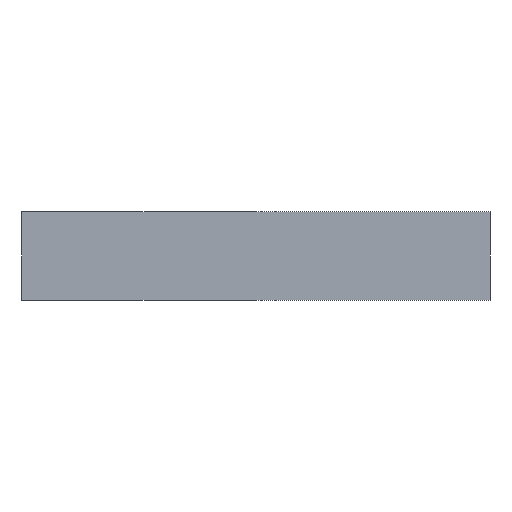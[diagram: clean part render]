
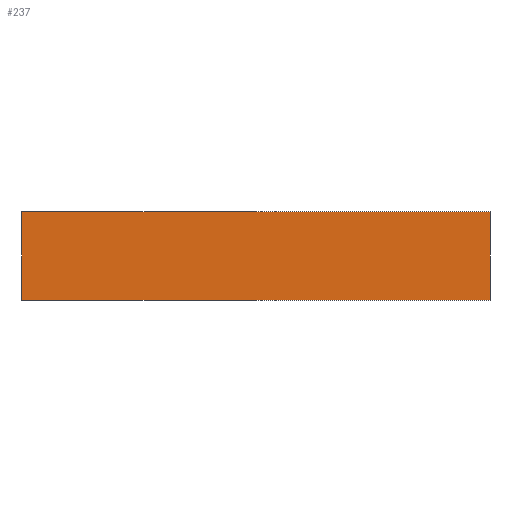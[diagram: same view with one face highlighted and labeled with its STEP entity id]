
A CAD part, front view. The second image highlights one B-rep face of the part: STEP entity #237.
In plain terms, the highlighted planar face has unit normal (0, -1, 0).
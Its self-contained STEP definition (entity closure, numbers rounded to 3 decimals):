
#21 = EDGE_CURVE('',#22,#24,#26,.T.);
#22 = VERTEX_POINT('',#23);
#23 = CARTESIAN_POINT('',(0.,0.,0.));
#24 = VERTEX_POINT('',#25);
#25 = CARTESIAN_POINT('',(0.,0.,22.));
#26 = SURFACE_CURVE('',#27,(#31,#43),.PCURVE_S1.);
#27 = LINE('',#28,#29);
#28 = CARTESIAN_POINT('',(0.,0.,0.));
#29 = VECTOR('',#30,1.);
#30 = DIRECTION('',(0.,0.,1.));
#31 = PCURVE('',#32,#37);
#32 = PLANE('',#33);
#33 = AXIS2_PLACEMENT_3D('',#34,#35,#36);
#34 = CARTESIAN_POINT('',(0.,0.,0.));
#35 = DIRECTION('',(1.,0.,0.));
#36 = DIRECTION('',(0.,0.,1.));
#37 = DEFINITIONAL_REPRESENTATION('',(#38),#42);
#38 = LINE('',#39,#40);
#39 = CARTESIAN_POINT('',(0.,0.));
#40 = VECTOR('',#41,1.);
#41 = DIRECTION('',(1.,0.));
#42 = ( GEOMETRIC_REPRESENTATION_CONTEXT(2) 
PARAMETRIC_REPRESENTATION_CONTEXT() REPRESENTATION_CONTEXT('2D SPACE',''
  ) );
#43 = PCURVE('',#44,#49);
#44 = PLANE('',#45);
#45 = AXIS2_PLACEMENT_3D('',#46,#47,#48);
#46 = CARTESIAN_POINT('',(0.,0.,0.));
#47 = DIRECTION('',(0.,1.,0.));
#48 = DIRECTION('',(0.,0.,1.));
#49 = DEFINITIONAL_REPRESENTATION('',(#50),#54);
#50 = LINE('',#51,#52);
#51 = CARTESIAN_POINT('',(0.,0.));
#52 = VECTOR('',#53,1.);
#53 = DIRECTION('',(1.,0.));
#54 = ( GEOMETRIC_REPRESENTATION_CONTEXT(2) 
PARAMETRIC_REPRESENTATION_CONTEXT() REPRESENTATION_CONTEXT('2D SPACE',''
  ) );
#72 = PLANE('',#73);
#73 = AXIS2_PLACEMENT_3D('',#74,#75,#76);
#74 = CARTESIAN_POINT('',(0.,0.,0.));
#75 = DIRECTION('',(0.,0.,1.));
#76 = DIRECTION('',(1.,0.,0.));
#126 = PLANE('',#127);
#127 = AXIS2_PLACEMENT_3D('',#128,#129,#130);
#128 = CARTESIAN_POINT('',(0.,0.,22.));
#129 = DIRECTION('',(0.,0.,1.));
#130 = DIRECTION('',(1.,0.,0.));
#141 = EDGE_CURVE('',#142,#144,#146,.T.);
#142 = VERTEX_POINT('',#143);
#143 = CARTESIAN_POINT('',(116.,0.,0.));
#144 = VERTEX_POINT('',#145);
#145 = CARTESIAN_POINT('',(116.,0.,22.));
#146 = SURFACE_CURVE('',#147,(#151,#163),.PCURVE_S1.);
#147 = LINE('',#148,#149);
#148 = CARTESIAN_POINT('',(116.,0.,0.));
#149 = VECTOR('',#150,1.);
#150 = DIRECTION('',(0.,0.,1.));
#151 = PCURVE('',#152,#157);
#152 = PLANE('',#153);
#153 = AXIS2_PLACEMENT_3D('',#154,#155,#156);
#154 = CARTESIAN_POINT('',(116.,0.,0.));
#155 = DIRECTION('',(1.,0.,0.));
#156 = DIRECTION('',(0.,0.,1.));
#157 = DEFINITIONAL_REPRESENTATION('',(#158),#162);
#158 = LINE('',#159,#160);
#159 = CARTESIAN_POINT('',(0.,0.));
#160 = VECTOR('',#161,1.);
#161 = DIRECTION('',(1.,0.));
#162 = ( GEOMETRIC_REPRESENTATION_CONTEXT(2) 
PARAMETRIC_REPRESENTATION_CONTEXT() REPRESENTATION_CONTEXT('2D SPACE',''
  ) );
#163 = PCURVE('',#44,#164);
#164 = DEFINITIONAL_REPRESENTATION('',(#165),#169);
#165 = LINE('',#166,#167);
#166 = CARTESIAN_POINT('',(0.,116.));
#167 = VECTOR('',#168,1.);
#168 = DIRECTION('',(1.,0.));
#169 = ( GEOMETRIC_REPRESENTATION_CONTEXT(2) 
PARAMETRIC_REPRESENTATION_CONTEXT() REPRESENTATION_CONTEXT('2D SPACE',''
  ) );
#237 = ADVANCED_FACE('',(#238),#44,.F.);
#238 = FACE_BOUND('',#239,.F.);
#239 = EDGE_LOOP('',(#240,#261,#262,#283));
#240 = ORIENTED_EDGE('',*,*,#241,.F.);
#241 = EDGE_CURVE('',#22,#142,#242,.T.);
#242 = SURFACE_CURVE('',#243,(#247,#254),.PCURVE_S1.);
#243 = LINE('',#244,#245);
#244 = CARTESIAN_POINT('',(0.,0.,0.));
#245 = VECTOR('',#246,1.);
#246 = DIRECTION('',(1.,0.,0.));
#247 = PCURVE('',#44,#248);
#248 = DEFINITIONAL_REPRESENTATION('',(#249),#253);
#249 = LINE('',#250,#251);
#250 = CARTESIAN_POINT('',(0.,0.));
#251 = VECTOR('',#252,1.);
#252 = DIRECTION('',(0.,1.));
#253 = ( GEOMETRIC_REPRESENTATION_CONTEXT(2) 
PARAMETRIC_REPRESENTATION_CONTEXT() REPRESENTATION_CONTEXT('2D SPACE',''
  ) );
#254 = PCURVE('',#72,#255);
#255 = DEFINITIONAL_REPRESENTATION('',(#256),#260);
#256 = LINE('',#257,#258);
#257 = CARTESIAN_POINT('',(0.,0.));
#258 = VECTOR('',#259,1.);
#259 = DIRECTION('',(1.,0.));
#260 = ( GEOMETRIC_REPRESENTATION_CONTEXT(2) 
PARAMETRIC_REPRESENTATION_CONTEXT() REPRESENTATION_CONTEXT('2D SPACE',''
  ) );
#261 = ORIENTED_EDGE('',*,*,#21,.T.);
#262 = ORIENTED_EDGE('',*,*,#263,.T.);
#263 = EDGE_CURVE('',#24,#144,#264,.T.);
#264 = SURFACE_CURVE('',#265,(#269,#276),.PCURVE_S1.);
#265 = LINE('',#266,#267);
#266 = CARTESIAN_POINT('',(0.,0.,22.));
#267 = VECTOR('',#268,1.);
#268 = DIRECTION('',(1.,0.,0.));
#269 = PCURVE('',#44,#270);
#270 = DEFINITIONAL_REPRESENTATION('',(#271),#275);
#271 = LINE('',#272,#273);
#272 = CARTESIAN_POINT('',(22.,0.));
#273 = VECTOR('',#274,1.);
#274 = DIRECTION('',(0.,1.));
#275 = ( GEOMETRIC_REPRESENTATION_CONTEXT(2) 
PARAMETRIC_REPRESENTATION_CONTEXT() REPRESENTATION_CONTEXT('2D SPACE',''
  ) );
#276 = PCURVE('',#126,#277);
#277 = DEFINITIONAL_REPRESENTATION('',(#278),#282);
#278 = LINE('',#279,#280);
#279 = CARTESIAN_POINT('',(0.,0.));
#280 = VECTOR('',#281,1.);
#281 = DIRECTION('',(1.,0.));
#282 = ( GEOMETRIC_REPRESENTATION_CONTEXT(2) 
PARAMETRIC_REPRESENTATION_CONTEXT() REPRESENTATION_CONTEXT('2D SPACE',''
  ) );
#283 = ORIENTED_EDGE('',*,*,#141,.F.);
